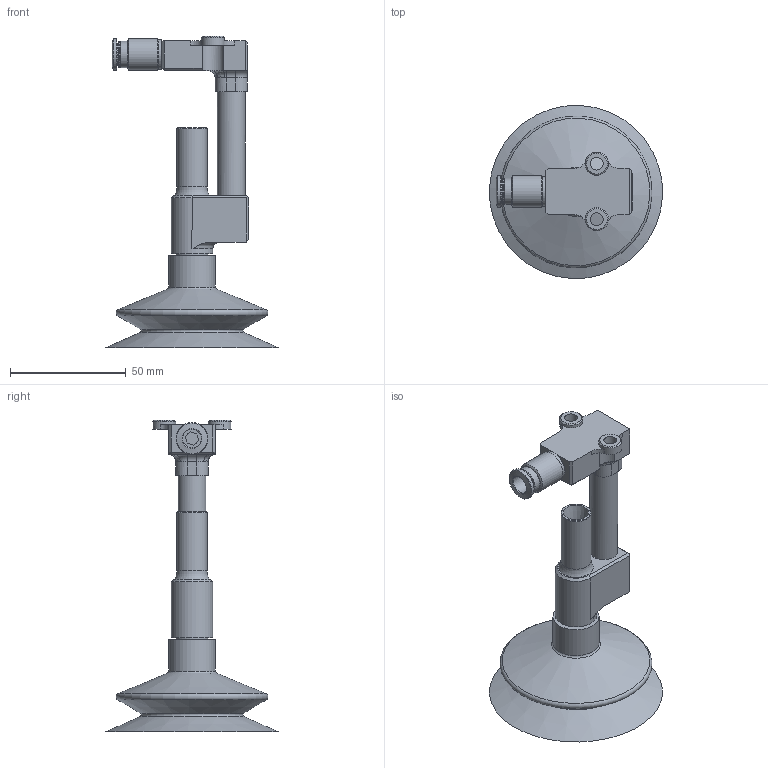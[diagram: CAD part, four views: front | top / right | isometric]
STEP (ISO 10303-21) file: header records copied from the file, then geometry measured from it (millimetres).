
FILE_DESCRIPTION(/* description */ ('Unknown'),/* implementation_level */ '2;1');
FILE_NAME(/* name */ 'HDHF Dm extern mit Tülle und 75er Sauger',/* time_stamp */ '2025-06-12T11:10:09+02:00',/* author */ ('S.Brockfeld'),/* organization */ ('DIL e.V.'),/* preprocessor_version */ 'ST-DEVELOPER v18.104',/* originating_system */ 'Solid Edge',/* authorisation */ 'Unknown');
FILE_SCHEMA (('AUTOMOTIVE_DESIGN {1 0 10303 214 3 1 1}'));
Length unit declared in the file: millimetre
Products named in the file (1): HDHF Dm extern mit Tülle und 75er Sauger
Bounding box: 74.92 x 74.92 x 134.97 mm (x, y, z)
Volume: 54465.3 mm3; surface area: 31156.3 mm2
Topology: 1 solids, 1 shells, 216 faces, 510 edges, 323 vertices
Faces by surface type: plane 121, cylinder 56, torus 18, cone 17, bspline 4
Full cylindrical faces by diameter (mm): 5.5 x2, 8 x1, 8.566 x2, 9.4 x1, 10 x2, 11.4 x2, 11.5 x1, 12 x1, 12.4 x2, 13 x2, 13.7 x1, 13.8 x1, 13.927 x1, 15 x1, 16.5 x1, 18 x1, 20 x1
Entity records: 10752 total; most frequent: CARTESIAN_POINT 4515, DIRECTION 976, ORIENTED_EDGE 896, EDGE_CURVE 448, AXIS2_PLACEMENT_3D 378, VERTEX_POINT 308, EDGE_LOOP 294, FACE_BOUND 294
